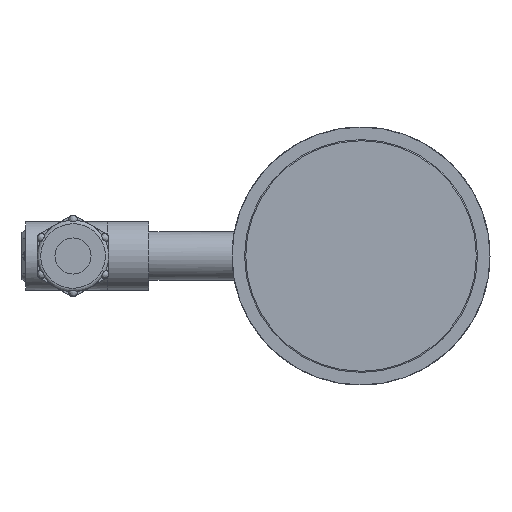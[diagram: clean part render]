
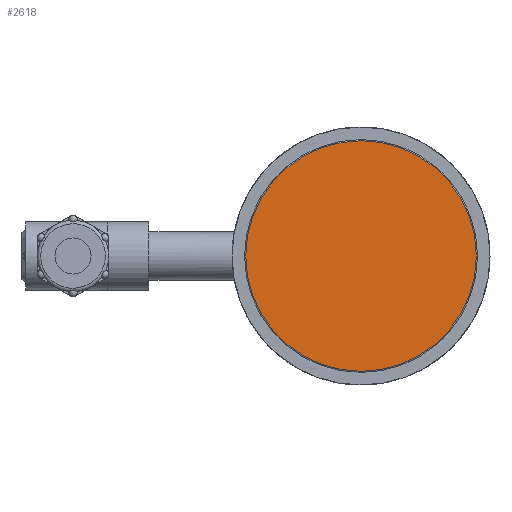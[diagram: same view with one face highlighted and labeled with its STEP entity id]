
A CAD part, left-side view. The second image highlights one B-rep face of the part: STEP entity #2618.
In plain terms, the highlighted planar face has unit normal (-1, 0, 0).
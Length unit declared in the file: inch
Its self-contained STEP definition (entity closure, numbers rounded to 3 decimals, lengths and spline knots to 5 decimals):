
#685 = CARTESIAN_POINT ( 'NONE',  ( 0., 0., -2.011 ) ) ;
#1158 = CARTESIAN_POINT ( 'NONE',  ( 0., -2.031, 0. ) ) ;
#2618 = ADVANCED_FACE ( 'NONE', ( #59915 ), #52561, .T. ) ;
#7285 = DIRECTION ( 'NONE',  ( 0., 0., -1. ) ) ;
#11706 = EDGE_CURVE ( 'NONE', #78115, #78115, #91552, .T. ) ;
#11978 = EDGE_LOOP ( 'NONE', ( #83084 ) ) ;
#15274 = AXIS2_PLACEMENT_3D ( 'NONE', #1158, #17008, #70101 ) ;
#15779 = DIRECTION ( 'NONE',  ( -1., 0., 0. ) ) ;
#17008 = DIRECTION ( 'NONE',  ( -1., 0., 0. ) ) ;
#23010 = AXIS2_PLACEMENT_3D ( 'NONE', #58669, #15779, #7285 ) ;
#52561 = PLANE ( 'NONE',  #15274 ) ;
#58669 = CARTESIAN_POINT ( 'NONE',  ( 0., 0., 0. ) ) ;
#59915 = FACE_OUTER_BOUND ( 'NONE', #11978, .T. ) ;
#70101 = DIRECTION ( 'NONE',  ( 0., 0., -1. ) ) ;
#78115 = VERTEX_POINT ( 'NONE', #685 ) ;
#83084 = ORIENTED_EDGE ( 'NONE', *, *, #11706, .T. ) ;
#91552 = CIRCLE ( 'NONE', #23010, 2.011 ) ;
